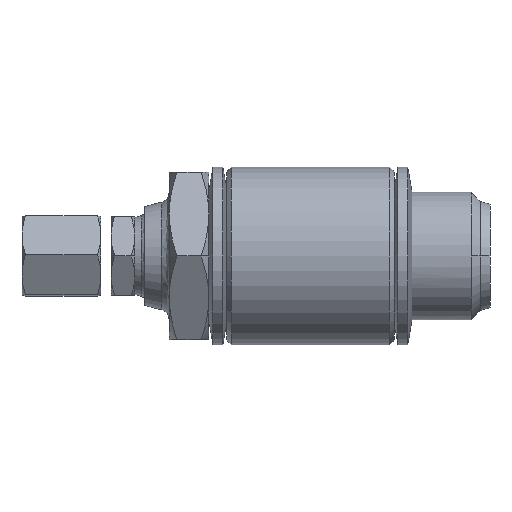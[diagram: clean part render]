
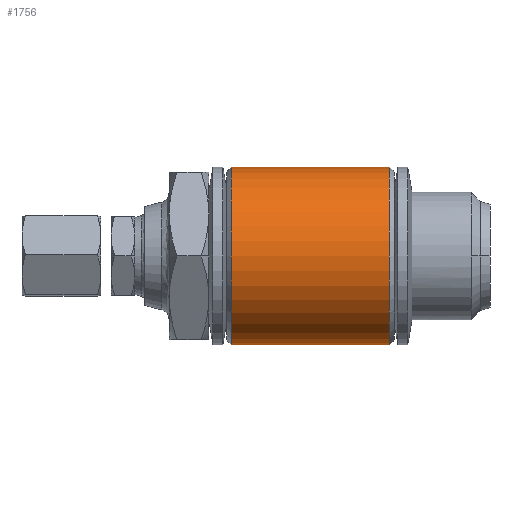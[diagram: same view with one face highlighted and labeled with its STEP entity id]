
A CAD part, left-side view. The second image highlights one B-rep face of the part: STEP entity #1756.
In plain terms, the highlighted cylindrical face has radius 9.027 mm (diameter 18.054 mm), a partial arc.
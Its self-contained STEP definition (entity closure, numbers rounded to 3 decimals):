
#21 = CYLINDRICAL_SURFACE ( 'NONE', #2387, 9.027 ) ;
#238 = CARTESIAN_POINT ( 'NONE',  ( -0.009, 8.67, -9.026 ) ) ;
#247 = CARTESIAN_POINT ( 'NONE',  ( -0.009, 26.222, 9.028 ) ) ;
#267 = EDGE_CURVE ( 'NONE', #1151, #7252, #7898, .T. ) ;
#410 = EDGE_CURVE ( 'NONE', #2051, #7252, #3663, .T. ) ;
#447 = CARTESIAN_POINT ( 'NONE',  ( -0.009, 26.222, -9.026 ) ) ;
#636 = ORIENTED_EDGE ( 'NONE', *, *, #3494, .T. ) ;
#972 = EDGE_CURVE ( 'NONE', #2051, #4101, #5506, .T. ) ;
#1151 = VERTEX_POINT ( 'NONE', #6411 ) ;
#1156 = DIRECTION ( 'NONE',  ( 0., 1., 0. ) ) ;
#1384 = FACE_OUTER_BOUND ( 'NONE', #7737, .T. ) ;
#1430 = DIRECTION ( 'NONE',  ( 0., -1., 0. ) ) ;
#1756 = ADVANCED_FACE ( 'NONE', ( #1384 ), #21, .T. ) ;
#1966 = CARTESIAN_POINT ( 'NONE',  ( -0.009, 8.67, 0.001 ) ) ;
#2051 = VERTEX_POINT ( 'NONE', #247 ) ;
#2118 = LINE ( 'NONE', #238, #5173 ) ;
#2277 = AXIS2_PLACEMENT_3D ( 'NONE', #7630, #1430, #6303 ) ;
#2387 = AXIS2_PLACEMENT_3D ( 'NONE', #1966, #6225, #7509 ) ;
#2430 = ORIENTED_EDGE ( 'NONE', *, *, #267, .T. ) ;
#2550 = ORIENTED_EDGE ( 'NONE', *, *, #410, .F. ) ;
#3494 = EDGE_CURVE ( 'NONE', #4101, #1151, #2118, .T. ) ;
#3663 = LINE ( 'NONE', #7428, #5994 ) ;
#3717 = DIRECTION ( 'NONE',  ( 0., -1., 0. ) ) ;
#4074 = CARTESIAN_POINT ( 'NONE',  ( -0.009, 10.174, 9.028 ) ) ;
#4101 = VERTEX_POINT ( 'NONE', #447 ) ;
#4209 = CARTESIAN_POINT ( 'NONE',  ( -0.009, 10.174, 0.001 ) ) ;
#4471 = DIRECTION ( 'NONE',  ( 0., -1., 0. ) ) ;
#4756 = ORIENTED_EDGE ( 'NONE', *, *, #972, .T. ) ;
#5173 = VECTOR ( 'NONE', #4471, 1000. ) ;
#5506 = CIRCLE ( 'NONE', #2277, 9.027 ) ;
#5994 = VECTOR ( 'NONE', #3717, 1000. ) ;
#6225 = DIRECTION ( 'NONE',  ( 0., -1., 0. ) ) ;
#6303 = DIRECTION ( 'NONE',  ( 0., 0., -1. ) ) ;
#6411 = CARTESIAN_POINT ( 'NONE',  ( -0.009, 10.174, -9.026 ) ) ;
#6413 = AXIS2_PLACEMENT_3D ( 'NONE', #4209, #1156, #7934 ) ;
#7252 = VERTEX_POINT ( 'NONE', #4074 ) ;
#7428 = CARTESIAN_POINT ( 'NONE',  ( -0.009, 8.67, 9.028 ) ) ;
#7509 = DIRECTION ( 'NONE',  ( 0., 0., -1. ) ) ;
#7630 = CARTESIAN_POINT ( 'NONE',  ( -0.009, 26.222, 0.001 ) ) ;
#7737 = EDGE_LOOP ( 'NONE', ( #2550, #4756, #636, #2430 ) ) ;
#7898 = CIRCLE ( 'NONE', #6413, 9.027 ) ;
#7934 = DIRECTION ( 'NONE',  ( 0., 0., -1. ) ) ;
